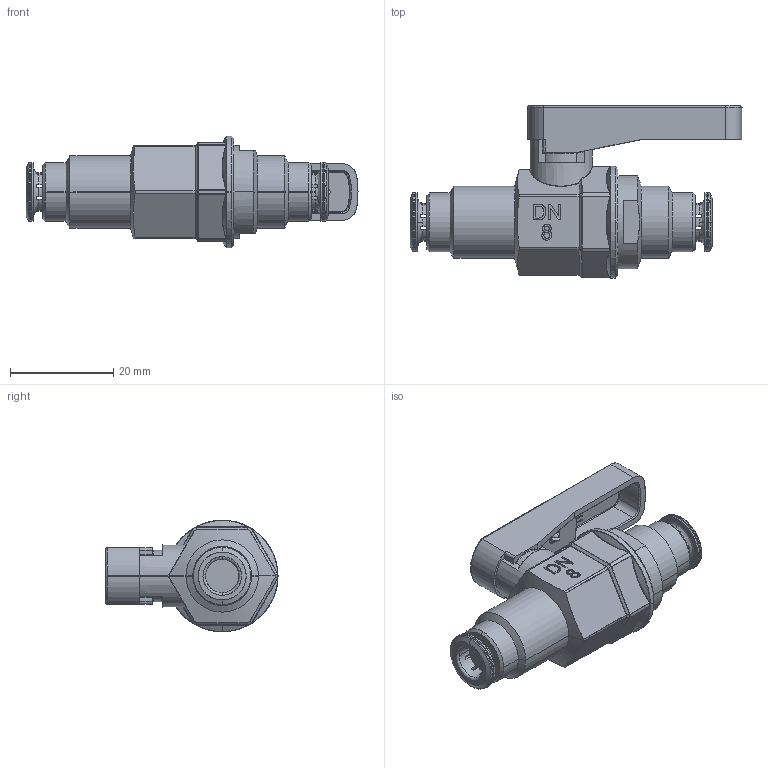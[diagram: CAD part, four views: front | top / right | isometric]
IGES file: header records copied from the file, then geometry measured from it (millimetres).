
Start section: SolidWorks IGES file using analytic representation for surfaces
Global section: file name: K:\Disegni\Disegni Esecutivi\ALPHA TECHNOLOGIES\84000\Assiemi-84000\84320\84320_iges\84320H0001.IGS; native system: SolidWorks 2016; preprocessor: SolidWorks 2016; author: cad07; date: 191212.095028; units: millimetre
Bounding box: 64.25 x 33.3 x 21.6 mm (x, y, z)
Surface area: 6002.7 mm2 (no closed solid volume)
Topology: 0 solids, 0 shells, 782 faces, 6237 edges, 6206 vertices
Faces by surface type: bspline 551, revolution 231
